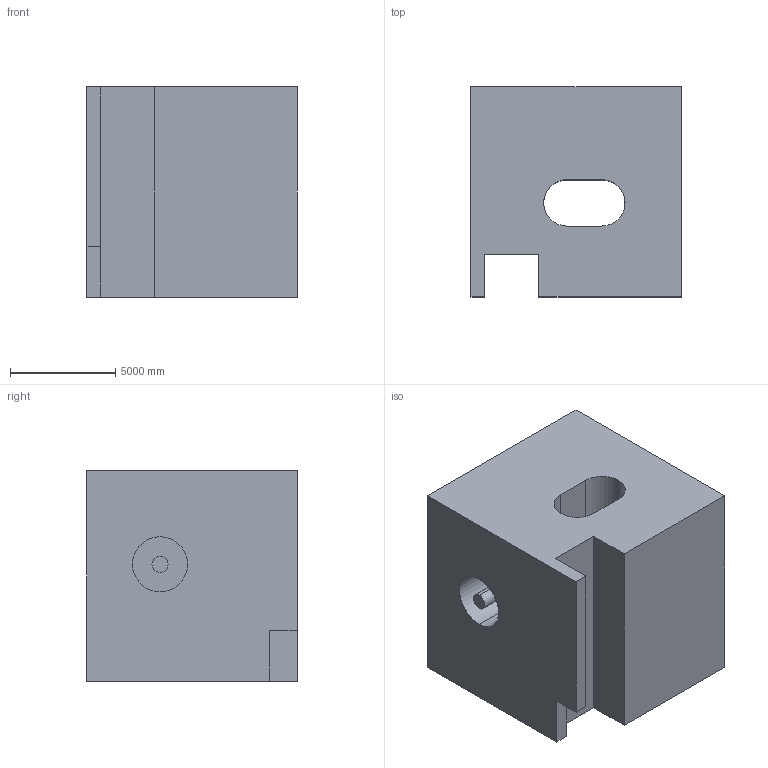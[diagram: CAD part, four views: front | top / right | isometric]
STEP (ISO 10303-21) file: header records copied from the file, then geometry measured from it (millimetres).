
FILE_DESCRIPTION (( 'STEP AP203' ), '1' );
FILE_NAME ('1402.STEP', '2022-08-18T14:15:56', ( 'user' ), ( '' ), 'SwSTEP 2.0', 'SolidWorks 2021', '' );
FILE_SCHEMA (( 'CONFIG_CONTROL_DESIGN' ));
Length unit declared in the file: centimetre
Products named in the file (1): 1402
Bounding box: 10000 x 10000 x 10000 mm (x, y, z)
Volume: 817605747191.7 mm3; surface area: 801241214.1 mm2
Topology: 1 solids, 1 shells, 26 faces, 63 edges, 42 vertices
Faces by surface type: plane 17, cylinder 9
Entity records: 846 total; most frequent: DIRECTION 135, CARTESIAN_POINT 132, ORIENTED_EDGE 126, EDGE_CURVE 63, VECTOR 45, AXIS2_PLACEMENT_3D 45, LINE 45, VERTEX_POINT 42
